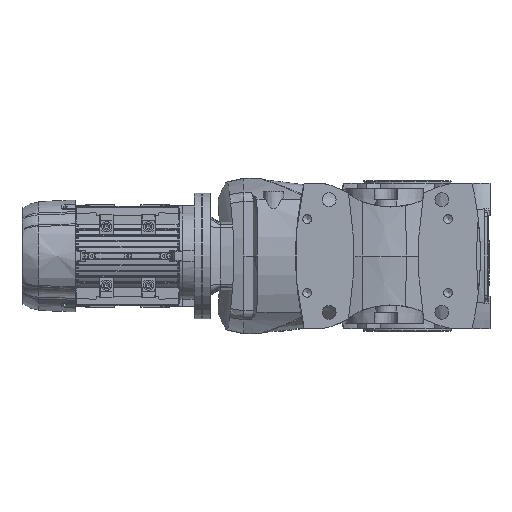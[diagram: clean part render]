
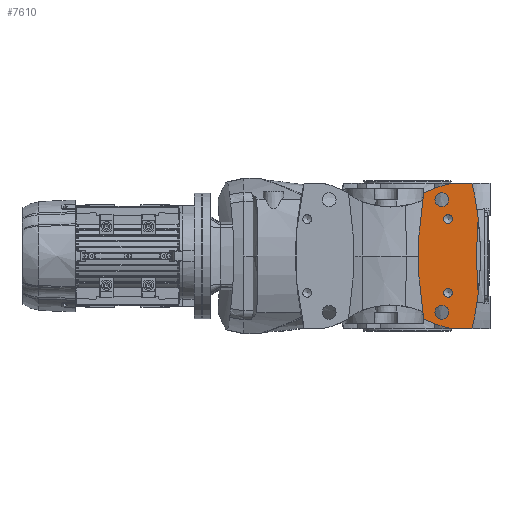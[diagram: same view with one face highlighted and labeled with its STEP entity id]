
A CAD part, front view. The second image highlights one B-rep face of the part: STEP entity #7610.
In plain terms, the highlighted planar face has unit normal (0, -1, 0).
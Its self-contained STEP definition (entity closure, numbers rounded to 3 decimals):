
#599=CARTESIAN_POINT('',(171.694,-175.0,116.));
#600=VERTEX_POINT('',#599);
#607=CARTESIAN_POINT('',(181.579,-175.0,60.0));
#608=VERTEX_POINT('',#607);
#609=CARTESIAN_POINT('',(-321.858,-175.0,0.0));
#610=DIRECTION('',(0.0,-1.0,0.0));
#611=DIRECTION('',(-1.0,0.0,0.0));
#612=AXIS2_PLACEMENT_3D('',#609,#610,#611);
#613=CIRCLE('',#612,507.);
#614=EDGE_CURVE('',#608,#600,#613,.T.);
#633=CARTESIAN_POINT('',(181.579,-175.0,-60.0));
#634=VERTEX_POINT('',#633);
#641=CARTESIAN_POINT('',(171.694,-175.0,-116.));
#642=VERTEX_POINT('',#641);
#643=CARTESIAN_POINT('',(-321.858,-175.0,0.0));
#644=DIRECTION('',(0.0,-1.0,0.0));
#645=DIRECTION('',(-1.0,0.0,0.0));
#646=AXIS2_PLACEMENT_3D('',#643,#644,#645);
#647=CIRCLE('',#646,507.);
#648=EDGE_CURVE('',#642,#634,#647,.T.);
#1382=CARTESIAN_POINT('',(134.5,-175.0,-90.0));
#1383=VERTEX_POINT('',#1382);
#1384=CARTESIAN_POINT('',(123.5,-175.0,-90.0));
#1385=DIRECTION('',(0.0,-1.0,0.0));
#1386=DIRECTION('',(1.0,0.0,0.0));
#1387=AXIS2_PLACEMENT_3D('',#1384,#1385,#1386);
#1388=CIRCLE('',#1387,11.);
#1389=EDGE_CURVE('',#1383,#1383,#1388,.T.);
#1519=CARTESIAN_POINT('',(134.5,-175.0,90.0));
#1520=VERTEX_POINT('',#1519);
#1521=CARTESIAN_POINT('',(123.5,-175.0,90.0));
#1522=DIRECTION('',(0.0,-1.0,0.0));
#1523=DIRECTION('',(1.0,0.0,0.0));
#1524=AXIS2_PLACEMENT_3D('',#1521,#1522,#1523);
#1525=CIRCLE('',#1524,11.);
#1526=EDGE_CURVE('',#1520,#1520,#1525,.T.);
#2076=CARTESIAN_POINT('',(133.5,-175.0,-66.0));
#2077=VERTEX_POINT('',#2076);
#2078=CARTESIAN_POINT('',(133.5,-175.0,-59.0));
#2079=DIRECTION('',(0.0,-1.0,0.0));
#2080=DIRECTION('',(0.0,0.0,-1.0));
#2081=AXIS2_PLACEMENT_3D('',#2078,#2079,#2080);
#2082=CIRCLE('',#2081,7.);
#2083=EDGE_CURVE('',#2077,#2077,#2082,.T.);
#2113=CARTESIAN_POINT('',(133.5,-175.0,52.0));
#2114=VERTEX_POINT('',#2113);
#2115=CARTESIAN_POINT('',(133.5,-175.0,59.0));
#2116=DIRECTION('',(0.0,-1.0,0.0));
#2117=DIRECTION('',(0.0,0.0,-1.0));
#2118=AXIS2_PLACEMENT_3D('',#2115,#2116,#2117);
#2119=CIRCLE('',#2118,7.);
#2120=EDGE_CURVE('',#2114,#2114,#2119,.T.);
#7541=CARTESIAN_POINT('',(-192.5,-175.0,124.7));
#7542=DIRECTION('',(0.0,1.0,0.0));
#7543=DIRECTION('',(0.0,0.0,1.0));
#7544=AXIS2_PLACEMENT_3D('',#7541,#7542,#7543);
#7545=PLANE('',#7544);
#7546=ORIENTED_EDGE('',*,*,#648,.T.);
#7547=CARTESIAN_POINT('',(979.326,-175.0,0.0));
#7548=DIRECTION('',(0.0,-1.0,0.0));
#7549=DIRECTION('',(1.0,0.0,0.0));
#7550=AXIS2_PLACEMENT_3D('',#7547,#7548,#7549);
#7551=CIRCLE('',#7550,800.0);
#7552=EDGE_CURVE('',#608,#634,#7551,.T.);
#7553=ORIENTED_EDGE('',*,*,#7552,.F.);
#7554=ORIENTED_EDGE('',*,*,#614,.T.);
#7555=CARTESIAN_POINT('',(139.5,-175.0,116.));
#7556=VERTEX_POINT('',#7555);
#7557=CARTESIAN_POINT('',(171.694,-175.0,116.));
#7558=DIRECTION('',(-1.0,0.0,0.0));
#7559=VECTOR('',#7558,32.194);
#7560=LINE('',#7557,#7559);
#7561=EDGE_CURVE('',#600,#7556,#7560,.T.);
#7562=ORIENTED_EDGE('',*,*,#7561,.T.);
#7563=CARTESIAN_POINT('',(94.5,-175.0,100.0));
#7564=VERTEX_POINT('',#7563);
#7565=CARTESIAN_POINT('',(166.611,-175.0,-31.53));
#7566=DIRECTION('',(0.0,-1.0,0.0));
#7567=DIRECTION('',(-1.0,0.0,0.0));
#7568=AXIS2_PLACEMENT_3D('',#7565,#7566,#7567);
#7569=CIRCLE('',#7568,150.0);
#7570=EDGE_CURVE('',#7556,#7564,#7569,.T.);
#7571=ORIENTED_EDGE('',*,*,#7570,.T.);
#7572=CARTESIAN_POINT('',(94.5,-175.0,-100.0));
#7573=VERTEX_POINT('',#7572);
#7574=CARTESIAN_POINT('',(686.108,-175.0,0.0));
#7575=DIRECTION('',(0.0,-1.0,0.0));
#7576=DIRECTION('',(1.0,0.0,0.0));
#7577=AXIS2_PLACEMENT_3D('',#7574,#7575,#7576);
#7578=CIRCLE('',#7577,600.);
#7579=EDGE_CURVE('',#7564,#7573,#7578,.T.);
#7580=ORIENTED_EDGE('',*,*,#7579,.T.);
#7581=CARTESIAN_POINT('',(139.5,-175.0,-116.));
#7582=VERTEX_POINT('',#7581);
#7583=CARTESIAN_POINT('',(166.611,-175.0,31.53));
#7584=DIRECTION('',(0.0,-1.0,0.0));
#7585=DIRECTION('',(1.0,0.0,0.0));
#7586=AXIS2_PLACEMENT_3D('',#7583,#7584,#7585);
#7587=CIRCLE('',#7586,150.);
#7588=EDGE_CURVE('',#7573,#7582,#7587,.T.);
#7589=ORIENTED_EDGE('',*,*,#7588,.T.);
#7590=CARTESIAN_POINT('',(139.5,-175.0,-116.));
#7591=DIRECTION('',(1.0,0.0,0.0));
#7592=VECTOR('',#7591,32.194);
#7593=LINE('',#7590,#7592);
#7594=EDGE_CURVE('',#7582,#642,#7593,.T.);
#7595=ORIENTED_EDGE('',*,*,#7594,.T.);
#7596=EDGE_LOOP('',(#7546,#7553,#7554,#7562,#7571,#7580,#7589,#7595));
#7597=FACE_OUTER_BOUND('',#7596,.T.);
#7598=ORIENTED_EDGE('',*,*,#2083,.F.);
#7599=EDGE_LOOP('',(#7598));
#7600=FACE_BOUND('',#7599,.T.);
#7601=ORIENTED_EDGE('',*,*,#1389,.F.);
#7602=EDGE_LOOP('',(#7601));
#7603=FACE_BOUND('',#7602,.T.);
#7604=ORIENTED_EDGE('',*,*,#1526,.F.);
#7605=EDGE_LOOP('',(#7604));
#7606=FACE_BOUND('',#7605,.T.);
#7607=ORIENTED_EDGE('',*,*,#2120,.F.);
#7608=EDGE_LOOP('',(#7607));
#7609=FACE_BOUND('',#7608,.T.);
#7610=ADVANCED_FACE('',(#7597,#7600,#7603,#7606,#7609),#7545,.F.);
